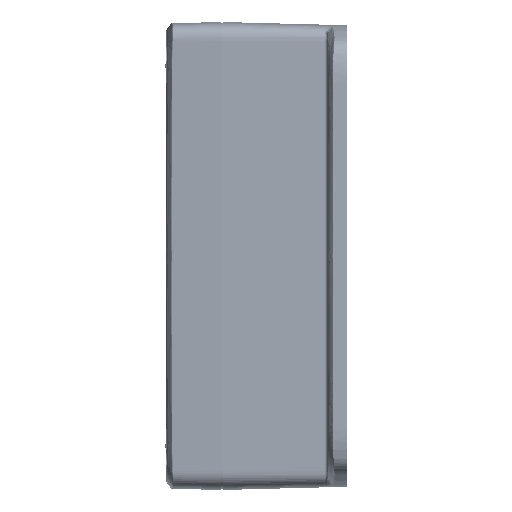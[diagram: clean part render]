
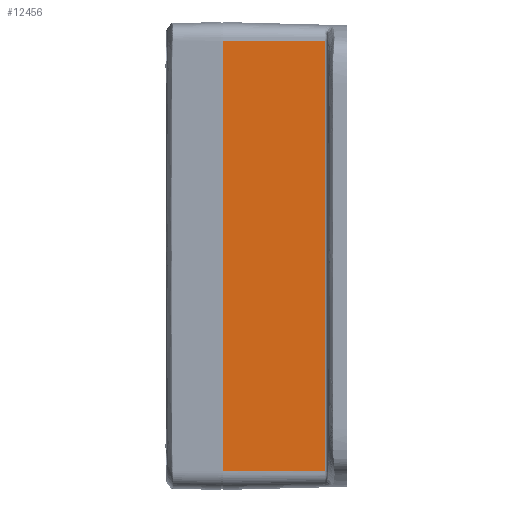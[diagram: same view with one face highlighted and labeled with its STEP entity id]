
A CAD part, left-side view. The second image highlights one B-rep face of the part: STEP entity #12456.
In plain terms, the highlighted planar face has unit normal (-1, -0.026, 0).
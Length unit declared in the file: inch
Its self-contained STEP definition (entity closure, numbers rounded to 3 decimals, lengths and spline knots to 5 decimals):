
#6252 = ORIENTED_EDGE ( 'NONE', *, *, #143458, .T. ) ;
#12456 = ADVANCED_FACE ( 'Face2', ( #46673 ), #91926, .T. ) ;
#20541 = DIRECTION ( 'NONE',  ( 0.026, -1., 0. ) ) ;
#20818 = AXIS2_PLACEMENT_3D ( 'NONE', #177159, #127002, #39502 ) ;
#24603 = ORIENTED_EDGE ( 'NONE', *, *, #135073, .F. ) ;
#27753 = CARTESIAN_POINT ( 'NONE',  ( -4.52553, 0.30311, 2.98495 ) ) ;
#32245 = LINE ( 'NONE', #93536, #130925 ) ;
#33057 = CARTESIAN_POINT ( 'NONE',  ( -4.52553, 0.30312, -2.98495 ) ) ;
#37334 = DIRECTION ( 'NONE',  ( 0., 0., 1. ) ) ;
#39502 = DIRECTION ( 'NONE',  ( 0.026, -1., 0. ) ) ;
#45147 = DIRECTION ( 'NONE',  ( 0., 0., 1. ) ) ;
#46673 = FACE_OUTER_BOUND ( 'NONE', #71322, .T. ) ;
#47563 = EDGE_CURVE ( 'NONE', #138348, #166796, #137559, .T. ) ;
#50644 = CARTESIAN_POINT ( 'NONE',  ( -4.5625, 1.715, 2.98495 ) ) ;
#69056 = VECTOR ( 'NONE', #45147, 39.37008 ) ;
#71322 = EDGE_LOOP ( 'NONE', ( #6252, #195116, #156470, #24603 ) ) ;
#71436 = LINE ( 'NONE', #174982, #119966 ) ;
#91926 = PLANE ( 'NONE',  #20818 ) ;
#93536 = CARTESIAN_POINT ( 'NONE',  ( -4.5625, 1.715, -2.98495 ) ) ;
#96129 = CARTESIAN_POINT ( 'NONE',  ( -4.52553, 0.30311, -2.98495 ) ) ;
#99183 = CARTESIAN_POINT ( 'NONE',  ( -4.5625, 1.715, 2.98495 ) ) ;
#103090 = VECTOR ( 'NONE', #20541, 39.37008 ) ;
#112943 = LINE ( 'NONE', #50644, #103090 ) ;
#119966 = VECTOR ( 'NONE', #37334, 39.37008 ) ;
#125340 = VERTEX_POINT ( 'NONE', #139007 ) ;
#127002 = DIRECTION ( 'NONE',  ( -1., -0.026, 0. ) ) ;
#130925 = VECTOR ( 'NONE', #163725, 39.37008 ) ;
#135073 = EDGE_CURVE ( 'NONE', #125340, #194472, #71436, .T. ) ;
#137559 = LINE ( 'NONE', #33057, #69056 ) ;
#138348 = VERTEX_POINT ( 'NONE', #96129 ) ;
#139007 = CARTESIAN_POINT ( 'NONE',  ( -4.5625, 1.715, -2.98495 ) ) ;
#143458 = EDGE_CURVE ( 'NONE', #125340, #138348, #32245, .T. ) ;
#155113 = EDGE_CURVE ( 'NONE', #194472, #166796, #112943, .T. ) ;
#156470 = ORIENTED_EDGE ( 'NONE', *, *, #155113, .F. ) ;
#163725 = DIRECTION ( 'NONE',  ( 0.026, -1., 0. ) ) ;
#166796 = VERTEX_POINT ( 'NONE', #27753 ) ;
#174982 = CARTESIAN_POINT ( 'NONE',  ( -4.5625, 1.715, -2.98495 ) ) ;
#177159 = CARTESIAN_POINT ( 'NONE',  ( -4.5625, 1.715, -2.98495 ) ) ;
#194472 = VERTEX_POINT ( 'NONE', #99183 ) ;
#195116 = ORIENTED_EDGE ( 'NONE', *, *, #47563, .T. ) ;
